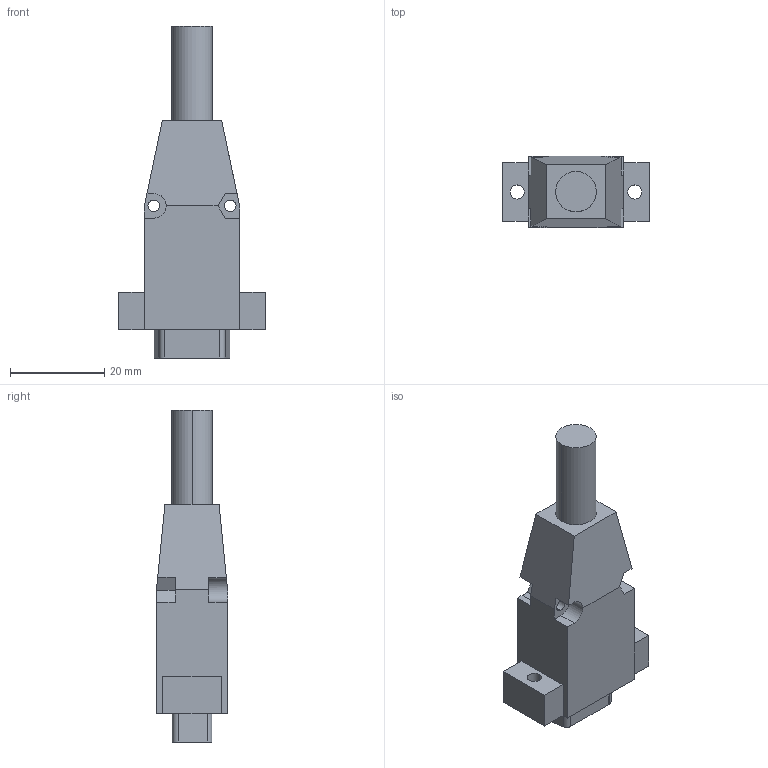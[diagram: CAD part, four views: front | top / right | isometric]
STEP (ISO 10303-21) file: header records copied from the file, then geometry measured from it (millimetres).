
FILE_DESCRIPTION (( 'STEP AP203' ), '1' );
FILE_NAME ('DB15G1-1000.STEP', '2024-07-01T02:29:42', ( '微软用户' ), ( '微软中国' ), 'SwSTEP 2.0', 'SolidWorks 2018', '' );
FILE_SCHEMA (( 'CONFIG_CONTROL_DESIGN' ));
Length unit declared in the file: millimetre
Products named in the file (2): ﾐﾂDB15G1-1000; DB15G1-1000
Assembly tree (1 placements, depth 2):
  DB15G1-1000
    ﾐﾂDB15G1-1000
Bounding box: 31.2 x 15.1 x 70.5 mm (x, y, z)
Volume: 13972.8 mm3; surface area: 5596.7 mm2
Topology: 1 solids, 1 shells, 158 faces, 368 edges, 245 vertices
Faces by surface type: cylinder 82, plane 76
Entity records: 4780 total; most frequent: DIRECTION 854, CARTESIAN_POINT 781, ORIENTED_EDGE 736, EDGE_CURVE 368, AXIS2_PLACEMENT_3D 326, VERTEX_POINT 245, LINE 202, VECTOR 202
